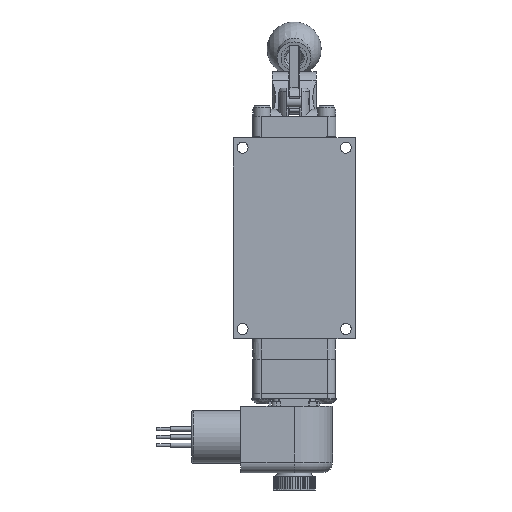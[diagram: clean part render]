
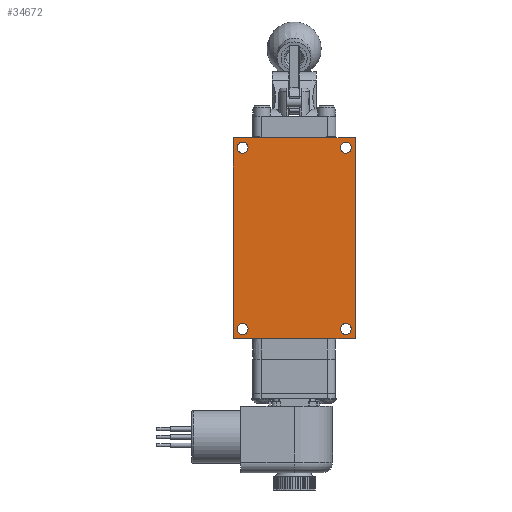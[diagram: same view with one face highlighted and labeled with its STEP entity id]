
A CAD part, front view. The second image highlights one B-rep face of the part: STEP entity #34672.
In plain terms, the highlighted planar face has unit normal (0, -1, 0).
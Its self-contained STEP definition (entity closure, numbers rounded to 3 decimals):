
#601=FACE_BOUND('',#6245,.T.);
#602=FACE_BOUND('',#6246,.T.);
#603=FACE_BOUND('',#6247,.T.);
#604=FACE_BOUND('',#6248,.T.);
#2118=CIRCLE('',#37479,0.258);
#2119=CIRCLE('',#37481,0.258);
#2120=CIRCLE('',#37483,0.258);
#2121=CIRCLE('',#37485,0.258);
#4171=FACE_OUTER_BOUND('',#6244,.T.);
#6244=EDGE_LOOP('',(#26875,#26876,#26877,#26878));
#6245=EDGE_LOOP('',(#26879));
#6246=EDGE_LOOP('',(#26880));
#6247=EDGE_LOOP('',(#26881));
#6248=EDGE_LOOP('',(#26882));
#7763=LINE('',#51285,#10267);
#8604=LINE('',#55291,#11108);
#8846=LINE('',#56712,#11350);
#8933=LINE('',#57712,#11437);
#10267=VECTOR('',#41006,1.);
#11108=VECTOR('',#43795,1.);
#11350=VECTOR('',#44187,1.);
#11437=VECTOR('',#44718,1.);
#13593=VERTEX_POINT('',#51282);
#13594=VERTEX_POINT('',#51284);
#14524=VERTEX_POINT('',#55289);
#14749=VERTEX_POINT('',#56711);
#14909=VERTEX_POINT('',#57653);
#14910=VERTEX_POINT('',#57657);
#14911=VERTEX_POINT('',#57661);
#14912=VERTEX_POINT('',#57665);
#17097=EDGE_CURVE('',#13593,#13594,#7763,.T.);
#18530=EDGE_CURVE('',#14524,#13593,#8604,.T.);
#18866=EDGE_CURVE('',#13594,#14749,#8846,.T.);
#19093=EDGE_CURVE('',#14909,#14909,#2118,.T.);
#19095=EDGE_CURVE('',#14910,#14910,#2119,.T.);
#19097=EDGE_CURVE('',#14911,#14911,#2120,.T.);
#19099=EDGE_CURVE('',#14912,#14912,#2121,.T.);
#19121=EDGE_CURVE('',#14749,#14524,#8933,.T.);
#26875=ORIENTED_EDGE('',*,*,#18530,.F.);
#26876=ORIENTED_EDGE('',*,*,#19121,.F.);
#26877=ORIENTED_EDGE('',*,*,#18866,.F.);
#26878=ORIENTED_EDGE('',*,*,#17097,.F.);
#26879=ORIENTED_EDGE('',*,*,#19093,.T.);
#26880=ORIENTED_EDGE('',*,*,#19095,.T.);
#26881=ORIENTED_EDGE('',*,*,#19097,.T.);
#26882=ORIENTED_EDGE('',*,*,#19099,.T.);
#31471=PLANE('',#37508);
#34672=ADVANCED_FACE('',(#4171,#601,#602,#603,#604),#31471,.F.);
#37479=AXIS2_PLACEMENT_3D('',#57655,#44642,#44643);
#37481=AXIS2_PLACEMENT_3D('',#57659,#44647,#44648);
#37483=AXIS2_PLACEMENT_3D('',#57663,#44652,#44653);
#37485=AXIS2_PLACEMENT_3D('',#57667,#44657,#44658);
#37508=AXIS2_PLACEMENT_3D('',#57711,#44716,#44717);
#41006=DIRECTION('',(1.,0.,0.));
#43795=DIRECTION('',(0.,0.,1.));
#44187=DIRECTION('',(0.,0.,-1.));
#44642=DIRECTION('center_axis',(0.,1.,0.));
#44643=DIRECTION('ref_axis',(-1.,0.,0.));
#44647=DIRECTION('center_axis',(0.,1.,0.));
#44648=DIRECTION('ref_axis',(-1.,0.,0.));
#44652=DIRECTION('center_axis',(0.,1.,0.));
#44653=DIRECTION('ref_axis',(-1.,0.,0.));
#44657=DIRECTION('center_axis',(0.,1.,0.));
#44658=DIRECTION('ref_axis',(-1.,0.,0.));
#44716=DIRECTION('center_axis',(0.,1.,0.));
#44717=DIRECTION('ref_axis',(0.,0.,1.));
#44718=DIRECTION('',(-1.,0.,0.));
#51282=CARTESIAN_POINT('',(-2.858,-1.636,4.71));
#51284=CARTESIAN_POINT('',(2.858,-1.636,4.71));
#51285=CARTESIAN_POINT('',(-2.858,-1.636,4.71));
#55289=CARTESIAN_POINT('',(-2.858,-1.636,-4.71));
#55291=CARTESIAN_POINT('',(-2.858,-1.636,-4.71));
#56711=CARTESIAN_POINT('',(2.858,-1.636,-4.71));
#56712=CARTESIAN_POINT('',(2.858,-1.636,4.71));
#57653=CARTESIAN_POINT('',(-2.163,-1.636,-4.247));
#57655=CARTESIAN_POINT('Origin',(-2.421,-1.636,-4.247));
#57657=CARTESIAN_POINT('',(-2.163,-1.636,4.247));
#57659=CARTESIAN_POINT('Origin',(-2.421,-1.636,4.247));
#57661=CARTESIAN_POINT('',(2.678,-1.636,-4.247));
#57663=CARTESIAN_POINT('Origin',(2.421,-1.636,-4.247));
#57665=CARTESIAN_POINT('',(2.678,-1.636,4.247));
#57667=CARTESIAN_POINT('Origin',(2.421,-1.636,4.247));
#57711=CARTESIAN_POINT('Origin',(0.,-1.636,0.));
#57712=CARTESIAN_POINT('',(2.858,-1.636,-4.71));
